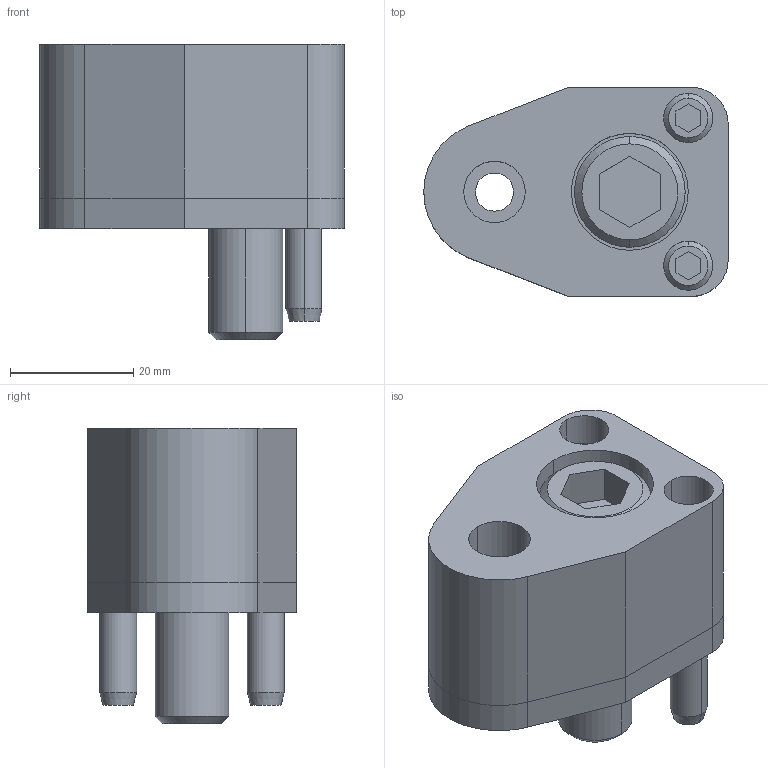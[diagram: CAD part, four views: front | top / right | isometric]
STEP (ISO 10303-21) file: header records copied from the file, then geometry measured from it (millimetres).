
FILE_DESCRIPTION(/* description */ (''),/* implementation_level */ '2;1');
FILE_NAME(/* name */ '3d_sp-aps10_02782_r00.stp',/* time_stamp */ '2011-01-10T14:10:17+09:00',/* author */ ('MISUMI'),/* organization */ (''),/* preprocessor_version */ 'ST-DEVELOPER v11',/* originating_system */ 'UGS - NX 5.0',/* authorisation */ '');
FILE_SCHEMA (('CONFIG_CONTROL_DESIGN'));
Length unit declared in the file: millimetre
Products named in the file (1): 3d_sp-aps10_02782_r00
Bounding box: 49.5 x 34 x 48 mm (x, y, z)
Volume: 40539.8 mm3; surface area: 17462.2 mm2
Topology: 7 solids, 7 shells, 130 faces, 290 edges, 186 vertices
Faces by surface type: plane 56, cylinder 52, cone 22
Entity records: 3770 total; most frequent: DIRECTION 674, CARTESIAN_POINT 655, ORIENTED_EDGE 580, EDGE_CURVE 290, AXIS2_PLACEMENT_3D 257, VERTEX_POINT 186, LINE 160, VECTOR 160
